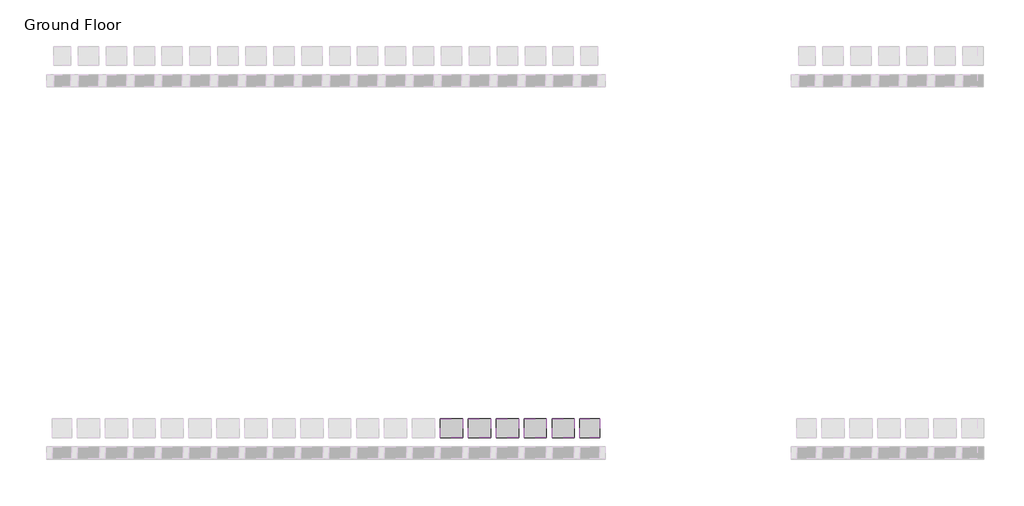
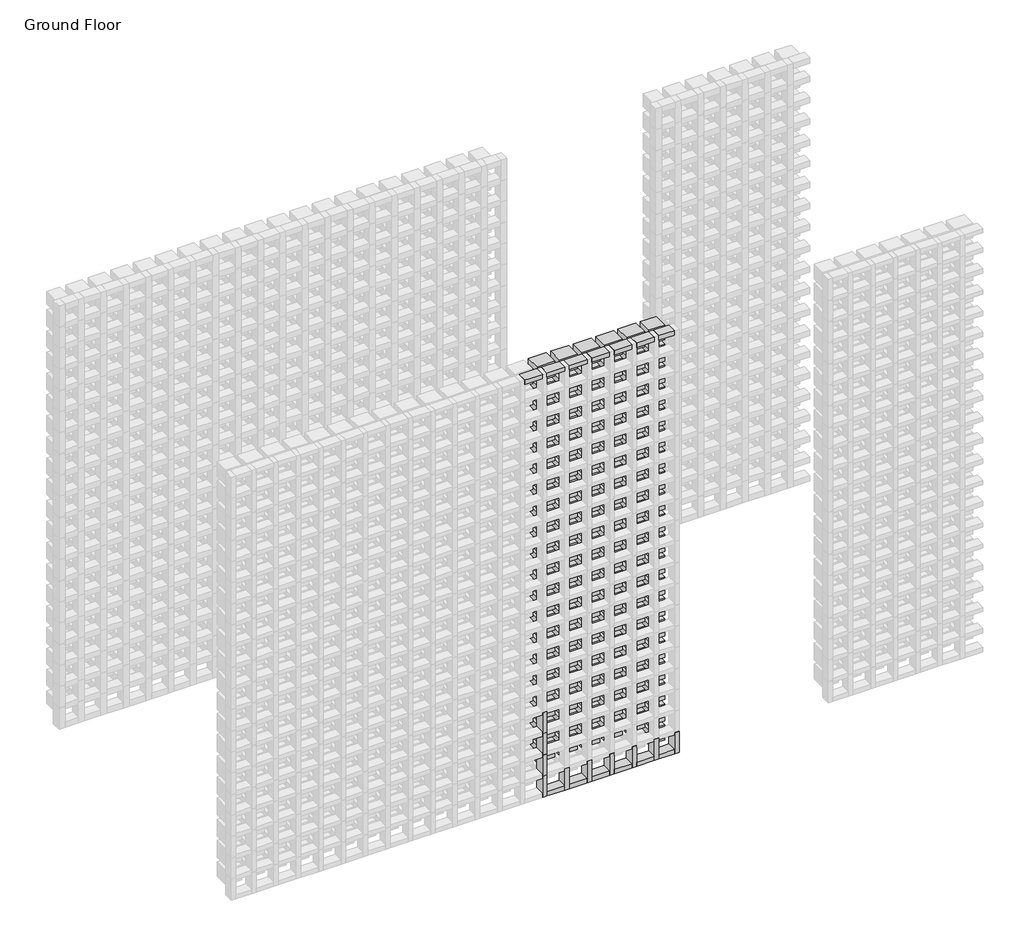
# One storey, part 62 of 350: 115 plates, 23 members.
"""IFC4 building model written with IfcOpenShell, lengths in millimetres."""

from ifc_helpers import new_model, si_unit, origin, place, context, project, spatial, transform, mapped, element, save
from components import rectangular_mullion_5b501421, rectangular_mullion_f2fcf417, rectangular_mullion_51467dcc, rectangular_mullion_27b03f3e, rectangular_mullion_d4c9a775, rectangular_mullion_a9727e9f, empty_system_panel_empty_a57e421f, empty_system_panel_empty_fe50b430, empty_system_panel_empty_3353a095, empty_system_panel_empty_0cf761f0

model = new_model("IFC4")

# Units and contexts
model_context = context("Model", 3, world=origin())
ifc_project = project(units=[si_unit("LENGTHUNIT", "METRE", prefix="MILLI")], contexts=[model_context])

# Site, building, storey
site = spatial("IfcSite", under=ifc_project)
building = spatial("IfcBuilding", under=site)
storey = spatial("IfcBuildingStorey", under=building, Name="Ground Floor", Elevation=0.0)

# Members
placement = place(None, origin())
rectangular_mullion_shape = rectangular_mullion_5b501421(model_context)
element("IfcMember", 1, ObjectType="Rectangular Mullion : Batten_Timber_Modinex_Austratus_Grid_Fascia_30x65_Blackbutt", at=placement, inside=storey, context=model_context, shape_type="MappedRepresentation", body=[
    mapped(rectangular_mullion_shape, transform((8016.4361642, 38968.2978302, 0.0), x_axis=(1.0, 0.0, 0.0), y_axis=(0.0, -1.0, 0.0), z_axis=(0.0, 0.0, -1.0))),
])
element("IfcMember", 2, ObjectType="Rectangular Mullion : Batten_Timber_Modinex_Austratus_Grid_Fascia_30x65_Blackbutt", at=placement, inside=storey, context=model_context, shape_type="MappedRepresentation", body=[
    mapped(rectangular_mullion_shape, transform((8166.4361642, 38968.2978302, 0.0), x_axis=(1.0, 0.0, 0.0), y_axis=(0.0, -1.0, 0.0), z_axis=(0.0, 0.0, -1.0))),
])
element("IfcMember", 3, ObjectType="Rectangular Mullion : Batten_Timber_Modinex_Austratus_Grid_Fascia_30x65_Blackbutt", at=placement, inside=storey, context=model_context, shape_type="MappedRepresentation", body=[
    mapped(rectangular_mullion_shape, transform((8316.4361642, 38968.2978302, 0.0), x_axis=(1.0, 0.0, 0.0), y_axis=(0.0, -1.0, 0.0), z_axis=(0.0, 0.0, -1.0))),
])
element("IfcMember", 4, ObjectType="Rectangular Mullion : Batten_Timber_Modinex_Austratus_Grid_Fascia_30x65_Blackbutt", at=placement, inside=storey, context=model_context, shape_type="MappedRepresentation", body=[
    mapped(rectangular_mullion_shape, transform((8466.4361642, 38968.2978302, 0.0), x_axis=(1.0, 0.0, 0.0), y_axis=(0.0, -1.0, 0.0), z_axis=(0.0, 0.0, -1.0))),
])
element("IfcMember", 5, ObjectType="Rectangular Mullion : Batten_Timber_Modinex_Austratus_Grid_Fascia_30x65_Blackbutt", at=placement, inside=storey, context=model_context, shape_type="MappedRepresentation", body=[
    mapped(rectangular_mullion_shape, transform((8616.4361642, 38968.2978302, 0.0), x_axis=(1.0, 0.0, 0.0), y_axis=(0.0, -1.0, 0.0), z_axis=(0.0, 0.0, -1.0))),
])
element("IfcMember", 6, ObjectType="Rectangular Mullion : Batten_Timber_Modinex_Austratus_Grid_Fascia_30x65_Blackbutt", at=placement, inside=storey, context=model_context, shape_type="MappedRepresentation", body=[
    mapped(rectangular_mullion_shape, transform((8766.4361642, 38968.2978302, 0.0), x_axis=(1.0, 0.0, 0.0), y_axis=(0.0, -1.0, 0.0), z_axis=(0.0, 0.0, -1.0))),
])
rectangular_mullion_2_shape = rectangular_mullion_f2fcf417(model_context)
element("IfcMember", 7, ObjectType="Rectangular Mullion : Batten_Timber_Modinex_Austratus_Grid_Fascia_30x65_Blackbutt", at=placement, inside=storey, context=model_context, shape_type="MappedRepresentation", body=[
    mapped(rectangular_mullion_2_shape, transform((8886.4361639, 38968.2978302, 3000.0), x_axis=(0.0, 0.0, 1.0), y_axis=(0.0, -1.0, 0.0), z_axis=(1.0, 0.0, 0.0))),
])
rectangular_mullion_3_shape = rectangular_mullion_51467dcc(model_context)
element("IfcMember", 8, ObjectType="Rectangular Mullion : Batten_Timber_Modinex_Austratus_Grid_Fascia_30x65_Blackbutt", at=placement, inside=storey, context=model_context, shape_type="MappedRepresentation", body=[
    mapped(rectangular_mullion_3_shape, transform((8001.4361642, 38968.2978302, 3000.0), x_axis=(0.0, 0.0, 1.0), y_axis=(0.0, -1.0, 0.0), z_axis=(1.0, 0.0, 0.0))),
])
element("IfcMember", 9, ObjectType="Rectangular Mullion : Batten_Timber_Modinex_Austratus_Grid_Fascia_30x65_Blackbutt", at=placement, inside=storey, context=model_context, shape_type="MappedRepresentation", body=[
    mapped(rectangular_mullion_3_shape, transform((8151.4361642, 38968.2978302, 3000.0), x_axis=(0.0, 0.0, 1.0), y_axis=(0.0, -1.0, 0.0), z_axis=(1.0, 0.0, 0.0))),
])
element("IfcMember", 10, ObjectType="Rectangular Mullion : Batten_Timber_Modinex_Austratus_Grid_Fascia_30x65_Blackbutt", at=placement, inside=storey, context=model_context, shape_type="MappedRepresentation", body=[
    mapped(rectangular_mullion_3_shape, transform((8301.4361642, 38968.2978302, 3000.0), x_axis=(0.0, 0.0, 1.0), y_axis=(0.0, -1.0, 0.0), z_axis=(1.0, 0.0, 0.0))),
])
element("IfcMember", 11, ObjectType="Rectangular Mullion : Batten_Timber_Modinex_Austratus_Grid_Fascia_30x65_Blackbutt", at=placement, inside=storey, context=model_context, shape_type="MappedRepresentation", body=[
    mapped(rectangular_mullion_3_shape, transform((8451.4361642, 38968.2978302, 3000.0), x_axis=(0.0, 0.0, 1.0), y_axis=(0.0, -1.0, 0.0), z_axis=(1.0, 0.0, 0.0))),
])
element("IfcMember", 12, ObjectType="Rectangular Mullion : Batten_Timber_Modinex_Austratus_Grid_Fascia_30x65_Blackbutt", at=placement, inside=storey, context=model_context, shape_type="MappedRepresentation", body=[
    mapped(rectangular_mullion_3_shape, transform((8601.4361642, 38968.2978302, 3000.0), x_axis=(0.0, 0.0, 1.0), y_axis=(0.0, -1.0, 0.0), z_axis=(1.0, 0.0, 0.0))),
])
element("IfcMember", 13, ObjectType="Rectangular Mullion : Batten_Timber_Modinex_Austratus_Grid_Fascia_30x65_Blackbutt", at=placement, inside=storey, context=model_context, shape_type="MappedRepresentation", body=[
    mapped(rectangular_mullion_3_shape, transform((8751.4361642, 38968.2978302, 3000.0), x_axis=(0.0, 0.0, 1.0), y_axis=(0.0, -1.0, 0.0), z_axis=(1.0, 0.0, 0.0))),
])
rectangular_mullion_4_shape = rectangular_mullion_27b03f3e(model_context)
element("IfcMember", 14, ObjectType="Rectangular Mullion : Batten_Timber_Modinex_Austratus_Grid_Fascia_30x65_Blackbutt", at=placement, inside=storey, context=model_context, shape_type="MappedRepresentation", body=[
    mapped(rectangular_mullion_4_shape, transform((8781.4361642, 38968.2978302, 0.0), x_axis=(0.0, 0.0, -1.0), y_axis=(0.0, -1.0, 0.0), z_axis=(-1.0, 0.0, 0.0))),
])
rectangular_mullion_5_shape = rectangular_mullion_d4c9a775(model_context)
element("IfcMember", 15, ObjectType="Rectangular Mullion : Batten_Timber_Modinex_Austratus_Grid_Fascia_30x65_Blackbutt", at=placement, inside=storey, context=model_context, shape_type="MappedRepresentation", body=[
    mapped(rectangular_mullion_5_shape, transform((8031.4361642, 38968.2978302, 0.0), x_axis=(0.0, 0.0, -1.0), y_axis=(0.0, -1.0, 0.0), z_axis=(-1.0, 0.0, 0.0))),
])
element("IfcMember", 16, ObjectType="Rectangular Mullion : Batten_Timber_Modinex_Austratus_Grid_Fascia_30x65_Blackbutt", at=placement, inside=storey, context=model_context, shape_type="MappedRepresentation", body=[
    mapped(rectangular_mullion_5_shape, transform((8181.4361642, 38968.2978302, 0.0), x_axis=(0.0, 0.0, -1.0), y_axis=(0.0, -1.0, 0.0), z_axis=(-1.0, 0.0, 0.0))),
])
element("IfcMember", 17, ObjectType="Rectangular Mullion : Batten_Timber_Modinex_Austratus_Grid_Fascia_30x65_Blackbutt", at=placement, inside=storey, context=model_context, shape_type="MappedRepresentation", body=[
    mapped(rectangular_mullion_5_shape, transform((8331.4361642, 38968.2978302, 0.0), x_axis=(0.0, 0.0, -1.0), y_axis=(0.0, -1.0, 0.0), z_axis=(-1.0, 0.0, 0.0))),
])
element("IfcMember", 18, ObjectType="Rectangular Mullion : Batten_Timber_Modinex_Austratus_Grid_Fascia_30x65_Blackbutt", at=placement, inside=storey, context=model_context, shape_type="MappedRepresentation", body=[
    mapped(rectangular_mullion_5_shape, transform((8481.4361642, 38968.2978302, 0.0), x_axis=(0.0, 0.0, -1.0), y_axis=(0.0, -1.0, 0.0), z_axis=(-1.0, 0.0, 0.0))),
])
element("IfcMember", 19, ObjectType="Rectangular Mullion : Batten_Timber_Modinex_Austratus_Grid_Fascia_30x65_Blackbutt", at=placement, inside=storey, context=model_context, shape_type="MappedRepresentation", body=[
    mapped(rectangular_mullion_5_shape, transform((8631.4361642, 38968.2978302, 0.0), x_axis=(0.0, 0.0, -1.0), y_axis=(0.0, -1.0, 0.0), z_axis=(-1.0, 0.0, 0.0))),
])
element("IfcMember", 20, ObjectType="Rectangular Mullion : Batten_Timber_Modinex_Austratus_Grid_Fascia_30x65_Blackbutt", at=placement, inside=storey, context=model_context, shape_type="MappedRepresentation", body=[
    mapped(rectangular_mullion_shape, transform((8016.4361642, 38968.2978302, 150.0), x_axis=(1.0, 0.0, 0.0), y_axis=(0.0, -1.0, 0.0), z_axis=(0.0, 0.0, -1.0))),
])
element("IfcMember", 21, ObjectType="Rectangular Mullion : Batten_Timber_Modinex_Austratus_Grid_Fascia_30x65_Blackbutt", at=placement, inside=storey, context=model_context, shape_type="MappedRepresentation", body=[
    mapped(rectangular_mullion_shape, transform((8016.4361642, 38968.2978302, 300.0), x_axis=(1.0, 0.0, 0.0), y_axis=(0.0, -1.0, 0.0), z_axis=(0.0, 0.0, -1.0))),
])
element("IfcMember", 22, ObjectType="Rectangular Mullion : Batten_Timber_Modinex_Austratus_Grid_Fascia_30x65_Blackbutt", at=placement, inside=storey, context=model_context, shape_type="MappedRepresentation", body=[
    mapped(rectangular_mullion_shape, transform((8016.4361642, 38968.2978302, 450.0), x_axis=(1.0, 0.0, 0.0), y_axis=(0.0, -1.0, 0.0), z_axis=(0.0, 0.0, -1.0))),
])
rectangular_mullion_6_shape = rectangular_mullion_a9727e9f(model_context)
element("IfcMember", 23, ObjectType="Rectangular Mullion : Batten_Timber_Modinex_Austratus_Grid_Fascia_30x65_Blackbutt", at=placement, inside=storey, context=model_context, shape_type="MappedRepresentation", body=[
    mapped(rectangular_mullion_6_shape, transform((8916.4361639, 38968.2978302, 0.0), x_axis=(1.0, 0.0, 0.0), y_axis=(0.0, -1.0, 0.0), z_axis=(0.0, 0.0, -1.0))),
])

# Plates
empty_system_panel_empty_shape = empty_system_panel_empty_a57e421f(model_context)
element("IfcPlate", 24, ObjectType="Empty System Panel : Empty", at=placement, inside=storey, context=model_context, shape_type="MappedRepresentation", body=[
    mapped(empty_system_panel_empty_shape, transform((8091.4361642, 38968.2978302, 165.0), x_axis=(1.0, 0.0, 0.0), y_axis=(0.0, 1.0, 0.0), z_axis=(0.0, 0.0, 1.0))),
])
element("IfcPlate", 25, ObjectType="Empty System Panel : Empty", at=placement, inside=storey, context=model_context, shape_type="MappedRepresentation", body=[
    mapped(empty_system_panel_empty_shape, transform((8241.4361642, 38968.2978302, 165.0), x_axis=(1.0, 0.0, 0.0), y_axis=(0.0, 1.0, 0.0), z_axis=(0.0, 0.0, 1.0))),
])
element("IfcPlate", 26, ObjectType="Empty System Panel : Empty", at=placement, inside=storey, context=model_context, shape_type="MappedRepresentation", body=[
    mapped(empty_system_panel_empty_shape, transform((8391.4361642, 38968.2978302, 165.0), x_axis=(1.0, 0.0, 0.0), y_axis=(0.0, 1.0, 0.0), z_axis=(0.0, 0.0, 1.0))),
])
element("IfcPlate", 27, ObjectType="Empty System Panel : Empty", at=placement, inside=storey, context=model_context, shape_type="MappedRepresentation", body=[
    mapped(empty_system_panel_empty_shape, transform((8541.4361642, 38968.2978302, 165.0), x_axis=(1.0, 0.0, 0.0), y_axis=(0.0, 1.0, 0.0), z_axis=(0.0, 0.0, 1.0))),
])
element("IfcPlate", 28, ObjectType="Empty System Panel : Empty", at=placement, inside=storey, context=model_context, shape_type="MappedRepresentation", body=[
    mapped(empty_system_panel_empty_shape, transform((8691.4361642, 38968.2978302, 165.0), x_axis=(1.0, 0.0, 0.0), y_axis=(0.0, 1.0, 0.0), z_axis=(0.0, 0.0, 1.0))),
])
element("IfcPlate", 29, ObjectType="Empty System Panel : Empty", at=placement, inside=storey, context=model_context, shape_type="MappedRepresentation", body=[
    mapped(empty_system_panel_empty_shape, transform((8091.4361642, 38968.2978302, 315.0), x_axis=(1.0, 0.0, 0.0), y_axis=(0.0, 1.0, 0.0), z_axis=(0.0, 0.0, 1.0))),
])
element("IfcPlate", 30, ObjectType="Empty System Panel : Empty", at=placement, inside=storey, context=model_context, shape_type="MappedRepresentation", body=[
    mapped(empty_system_panel_empty_shape, transform((8241.4361642, 38968.2978302, 315.0), x_axis=(1.0, 0.0, 0.0), y_axis=(0.0, 1.0, 0.0), z_axis=(0.0, 0.0, 1.0))),
])
element("IfcPlate", 31, ObjectType="Empty System Panel : Empty", at=placement, inside=storey, context=model_context, shape_type="MappedRepresentation", body=[
    mapped(empty_system_panel_empty_shape, transform((8391.4361642, 38968.2978302, 315.0), x_axis=(1.0, 0.0, 0.0), y_axis=(0.0, 1.0, 0.0), z_axis=(0.0, 0.0, 1.0))),
])
element("IfcPlate", 32, ObjectType="Empty System Panel : Empty", at=placement, inside=storey, context=model_context, shape_type="MappedRepresentation", body=[
    mapped(empty_system_panel_empty_shape, transform((8541.4361642, 38968.2978302, 315.0), x_axis=(1.0, 0.0, 0.0), y_axis=(0.0, 1.0, 0.0), z_axis=(0.0, 0.0, 1.0))),
])
element("IfcPlate", 33, ObjectType="Empty System Panel : Empty", at=placement, inside=storey, context=model_context, shape_type="MappedRepresentation", body=[
    mapped(empty_system_panel_empty_shape, transform((8691.4361642, 38968.2978302, 315.0), x_axis=(1.0, 0.0, 0.0), y_axis=(0.0, 1.0, 0.0), z_axis=(0.0, 0.0, 1.0))),
])
element("IfcPlate", 34, ObjectType="Empty System Panel : Empty", at=placement, inside=storey, context=model_context, shape_type="MappedRepresentation", body=[
    mapped(empty_system_panel_empty_shape, transform((8091.4361642, 38968.2978302, 465.0), x_axis=(1.0, 0.0, 0.0), y_axis=(0.0, 1.0, 0.0), z_axis=(0.0, 0.0, 1.0))),
])
element("IfcPlate", 35, ObjectType="Empty System Panel : Empty", at=placement, inside=storey, context=model_context, shape_type="MappedRepresentation", body=[
    mapped(empty_system_panel_empty_shape, transform((8241.4361642, 38968.2978302, 465.0), x_axis=(1.0, 0.0, 0.0), y_axis=(0.0, 1.0, 0.0), z_axis=(0.0, 0.0, 1.0))),
])
element("IfcPlate", 36, ObjectType="Empty System Panel : Empty", at=placement, inside=storey, context=model_context, shape_type="MappedRepresentation", body=[
    mapped(empty_system_panel_empty_shape, transform((8391.4361642, 38968.2978302, 465.0), x_axis=(1.0, 0.0, 0.0), y_axis=(0.0, 1.0, 0.0), z_axis=(0.0, 0.0, 1.0))),
])
element("IfcPlate", 37, ObjectType="Empty System Panel : Empty", at=placement, inside=storey, context=model_context, shape_type="MappedRepresentation", body=[
    mapped(empty_system_panel_empty_shape, transform((8541.4361642, 38968.2978302, 465.0), x_axis=(1.0, 0.0, 0.0), y_axis=(0.0, 1.0, 0.0), z_axis=(0.0, 0.0, 1.0))),
])
element("IfcPlate", 38, ObjectType="Empty System Panel : Empty", at=placement, inside=storey, context=model_context, shape_type="MappedRepresentation", body=[
    mapped(empty_system_panel_empty_shape, transform((8691.4361642, 38968.2978302, 465.0), x_axis=(1.0, 0.0, 0.0), y_axis=(0.0, 1.0, 0.0), z_axis=(0.0, 0.0, 1.0))),
])
element("IfcPlate", 39, ObjectType="Empty System Panel : Empty", at=placement, inside=storey, context=model_context, shape_type="MappedRepresentation", body=[
    mapped(empty_system_panel_empty_shape, transform((8091.4361642, 38968.2978302, 615.0), x_axis=(1.0, 0.0, 0.0), y_axis=(0.0, 1.0, 0.0), z_axis=(0.0, 0.0, 1.0))),
])
element("IfcPlate", 40, ObjectType="Empty System Panel : Empty", at=placement, inside=storey, context=model_context, shape_type="MappedRepresentation", body=[
    mapped(empty_system_panel_empty_shape, transform((8241.4361642, 38968.2978302, 615.0), x_axis=(1.0, 0.0, 0.0), y_axis=(0.0, 1.0, 0.0), z_axis=(0.0, 0.0, 1.0))),
])
element("IfcPlate", 41, ObjectType="Empty System Panel : Empty", at=placement, inside=storey, context=model_context, shape_type="MappedRepresentation", body=[
    mapped(empty_system_panel_empty_shape, transform((8391.4361642, 38968.2978302, 615.0), x_axis=(1.0, 0.0, 0.0), y_axis=(0.0, 1.0, 0.0), z_axis=(0.0, 0.0, 1.0))),
])
element("IfcPlate", 42, ObjectType="Empty System Panel : Empty", at=placement, inside=storey, context=model_context, shape_type="MappedRepresentation", body=[
    mapped(empty_system_panel_empty_shape, transform((8541.4361642, 38968.2978302, 615.0), x_axis=(1.0, 0.0, 0.0), y_axis=(0.0, 1.0, 0.0), z_axis=(0.0, 0.0, 1.0))),
])
element("IfcPlate", 43, ObjectType="Empty System Panel : Empty", at=placement, inside=storey, context=model_context, shape_type="MappedRepresentation", body=[
    mapped(empty_system_panel_empty_shape, transform((8691.4361642, 38968.2978302, 615.0), x_axis=(1.0, 0.0, 0.0), y_axis=(0.0, 1.0, 0.0), z_axis=(0.0, 0.0, 1.0))),
])
element("IfcPlate", 44, ObjectType="Empty System Panel : Empty", at=placement, inside=storey, context=model_context, shape_type="MappedRepresentation", body=[
    mapped(empty_system_panel_empty_shape, transform((8091.4361642, 38968.2978302, 765.0), x_axis=(1.0, 0.0, 0.0), y_axis=(0.0, 1.0, 0.0), z_axis=(0.0, 0.0, 1.0))),
])
element("IfcPlate", 45, ObjectType="Empty System Panel : Empty", at=placement, inside=storey, context=model_context, shape_type="MappedRepresentation", body=[
    mapped(empty_system_panel_empty_shape, transform((8241.4361642, 38968.2978302, 765.0), x_axis=(1.0, 0.0, 0.0), y_axis=(0.0, 1.0, 0.0), z_axis=(0.0, 0.0, 1.0))),
])
element("IfcPlate", 46, ObjectType="Empty System Panel : Empty", at=placement, inside=storey, context=model_context, shape_type="MappedRepresentation", body=[
    mapped(empty_system_panel_empty_shape, transform((8391.4361642, 38968.2978302, 765.0), x_axis=(1.0, 0.0, 0.0), y_axis=(0.0, 1.0, 0.0), z_axis=(0.0, 0.0, 1.0))),
])
element("IfcPlate", 47, ObjectType="Empty System Panel : Empty", at=placement, inside=storey, context=model_context, shape_type="MappedRepresentation", body=[
    mapped(empty_system_panel_empty_shape, transform((8541.4361642, 38968.2978302, 765.0), x_axis=(1.0, 0.0, 0.0), y_axis=(0.0, 1.0, 0.0), z_axis=(0.0, 0.0, 1.0))),
])
element("IfcPlate", 48, ObjectType="Empty System Panel : Empty", at=placement, inside=storey, context=model_context, shape_type="MappedRepresentation", body=[
    mapped(empty_system_panel_empty_shape, transform((8691.4361642, 38968.2978302, 765.0), x_axis=(1.0, 0.0, 0.0), y_axis=(0.0, 1.0, 0.0), z_axis=(0.0, 0.0, 1.0))),
])
element("IfcPlate", 49, ObjectType="Empty System Panel : Empty", at=placement, inside=storey, context=model_context, shape_type="MappedRepresentation", body=[
    mapped(empty_system_panel_empty_shape, transform((8091.4361642, 38968.2978302, 915.0), x_axis=(1.0, 0.0, 0.0), y_axis=(0.0, 1.0, 0.0), z_axis=(0.0, 0.0, 1.0))),
])
element("IfcPlate", 50, ObjectType="Empty System Panel : Empty", at=placement, inside=storey, context=model_context, shape_type="MappedRepresentation", body=[
    mapped(empty_system_panel_empty_shape, transform((8241.4361642, 38968.2978302, 915.0), x_axis=(1.0, 0.0, 0.0), y_axis=(0.0, 1.0, 0.0), z_axis=(0.0, 0.0, 1.0))),
])
element("IfcPlate", 51, ObjectType="Empty System Panel : Empty", at=placement, inside=storey, context=model_context, shape_type="MappedRepresentation", body=[
    mapped(empty_system_panel_empty_shape, transform((8391.4361642, 38968.2978302, 915.0), x_axis=(1.0, 0.0, 0.0), y_axis=(0.0, 1.0, 0.0), z_axis=(0.0, 0.0, 1.0))),
])
element("IfcPlate", 52, ObjectType="Empty System Panel : Empty", at=placement, inside=storey, context=model_context, shape_type="MappedRepresentation", body=[
    mapped(empty_system_panel_empty_shape, transform((8541.4361642, 38968.2978302, 915.0), x_axis=(1.0, 0.0, 0.0), y_axis=(0.0, 1.0, 0.0), z_axis=(0.0, 0.0, 1.0))),
])
element("IfcPlate", 53, ObjectType="Empty System Panel : Empty", at=placement, inside=storey, context=model_context, shape_type="MappedRepresentation", body=[
    mapped(empty_system_panel_empty_shape, transform((8691.4361642, 38968.2978302, 915.0), x_axis=(1.0, 0.0, 0.0), y_axis=(0.0, 1.0, 0.0), z_axis=(0.0, 0.0, 1.0))),
])
element("IfcPlate", 54, ObjectType="Empty System Panel : Empty", at=placement, inside=storey, context=model_context, shape_type="MappedRepresentation", body=[
    mapped(empty_system_panel_empty_shape, transform((8091.4361642, 38968.2978302, 1065.0), x_axis=(1.0, 0.0, 0.0), y_axis=(0.0, 1.0, 0.0), z_axis=(0.0, 0.0, 1.0))),
])
element("IfcPlate", 55, ObjectType="Empty System Panel : Empty", at=placement, inside=storey, context=model_context, shape_type="MappedRepresentation", body=[
    mapped(empty_system_panel_empty_shape, transform((8241.4361642, 38968.2978302, 1065.0), x_axis=(1.0, 0.0, 0.0), y_axis=(0.0, 1.0, 0.0), z_axis=(0.0, 0.0, 1.0))),
])
element("IfcPlate", 56, ObjectType="Empty System Panel : Empty", at=placement, inside=storey, context=model_context, shape_type="MappedRepresentation", body=[
    mapped(empty_system_panel_empty_shape, transform((8391.4361642, 38968.2978302, 1065.0), x_axis=(1.0, 0.0, 0.0), y_axis=(0.0, 1.0, 0.0), z_axis=(0.0, 0.0, 1.0))),
])
element("IfcPlate", 57, ObjectType="Empty System Panel : Empty", at=placement, inside=storey, context=model_context, shape_type="MappedRepresentation", body=[
    mapped(empty_system_panel_empty_shape, transform((8541.4361642, 38968.2978302, 1065.0), x_axis=(1.0, 0.0, 0.0), y_axis=(0.0, 1.0, 0.0), z_axis=(0.0, 0.0, 1.0))),
])
element("IfcPlate", 58, ObjectType="Empty System Panel : Empty", at=placement, inside=storey, context=model_context, shape_type="MappedRepresentation", body=[
    mapped(empty_system_panel_empty_shape, transform((8691.4361642, 38968.2978302, 1065.0), x_axis=(1.0, 0.0, 0.0), y_axis=(0.0, 1.0, 0.0), z_axis=(0.0, 0.0, 1.0))),
])
element("IfcPlate", 59, ObjectType="Empty System Panel : Empty", at=placement, inside=storey, context=model_context, shape_type="MappedRepresentation", body=[
    mapped(empty_system_panel_empty_shape, transform((8091.4361642, 38968.2978302, 1215.0), x_axis=(1.0, 0.0, 0.0), y_axis=(0.0, 1.0, 0.0), z_axis=(0.0, 0.0, 1.0))),
])
element("IfcPlate", 60, ObjectType="Empty System Panel : Empty", at=placement, inside=storey, context=model_context, shape_type="MappedRepresentation", body=[
    mapped(empty_system_panel_empty_shape, transform((8241.4361642, 38968.2978302, 1215.0), x_axis=(1.0, 0.0, 0.0), y_axis=(0.0, 1.0, 0.0), z_axis=(0.0, 0.0, 1.0))),
])
element("IfcPlate", 61, ObjectType="Empty System Panel : Empty", at=placement, inside=storey, context=model_context, shape_type="MappedRepresentation", body=[
    mapped(empty_system_panel_empty_shape, transform((8391.4361642, 38968.2978302, 1215.0), x_axis=(1.0, 0.0, 0.0), y_axis=(0.0, 1.0, 0.0), z_axis=(0.0, 0.0, 1.0))),
])
element("IfcPlate", 62, ObjectType="Empty System Panel : Empty", at=placement, inside=storey, context=model_context, shape_type="MappedRepresentation", body=[
    mapped(empty_system_panel_empty_shape, transform((8541.4361642, 38968.2978302, 1215.0), x_axis=(1.0, 0.0, 0.0), y_axis=(0.0, 1.0, 0.0), z_axis=(0.0, 0.0, 1.0))),
])
element("IfcPlate", 63, ObjectType="Empty System Panel : Empty", at=placement, inside=storey, context=model_context, shape_type="MappedRepresentation", body=[
    mapped(empty_system_panel_empty_shape, transform((8691.4361642, 38968.2978302, 1215.0), x_axis=(1.0, 0.0, 0.0), y_axis=(0.0, 1.0, 0.0), z_axis=(0.0, 0.0, 1.0))),
])
element("IfcPlate", 64, ObjectType="Empty System Panel : Empty", at=placement, inside=storey, context=model_context, shape_type="MappedRepresentation", body=[
    mapped(empty_system_panel_empty_shape, transform((8091.4361642, 38968.2978302, 1365.0), x_axis=(1.0, 0.0, 0.0), y_axis=(0.0, 1.0, 0.0), z_axis=(0.0, 0.0, 1.0))),
])
element("IfcPlate", 65, ObjectType="Empty System Panel : Empty", at=placement, inside=storey, context=model_context, shape_type="MappedRepresentation", body=[
    mapped(empty_system_panel_empty_shape, transform((8241.4361642, 38968.2978302, 1365.0), x_axis=(1.0, 0.0, 0.0), y_axis=(0.0, 1.0, 0.0), z_axis=(0.0, 0.0, 1.0))),
])
element("IfcPlate", 66, ObjectType="Empty System Panel : Empty", at=placement, inside=storey, context=model_context, shape_type="MappedRepresentation", body=[
    mapped(empty_system_panel_empty_shape, transform((8391.4361642, 38968.2978302, 1365.0), x_axis=(1.0, 0.0, 0.0), y_axis=(0.0, 1.0, 0.0), z_axis=(0.0, 0.0, 1.0))),
])
element("IfcPlate", 67, ObjectType="Empty System Panel : Empty", at=placement, inside=storey, context=model_context, shape_type="MappedRepresentation", body=[
    mapped(empty_system_panel_empty_shape, transform((8541.4361642, 38968.2978302, 1365.0), x_axis=(1.0, 0.0, 0.0), y_axis=(0.0, 1.0, 0.0), z_axis=(0.0, 0.0, 1.0))),
])
element("IfcPlate", 68, ObjectType="Empty System Panel : Empty", at=placement, inside=storey, context=model_context, shape_type="MappedRepresentation", body=[
    mapped(empty_system_panel_empty_shape, transform((8691.4361642, 38968.2978302, 1365.0), x_axis=(1.0, 0.0, 0.0), y_axis=(0.0, 1.0, 0.0), z_axis=(0.0, 0.0, 1.0))),
])
element("IfcPlate", 69, ObjectType="Empty System Panel : Empty", at=placement, inside=storey, context=model_context, shape_type="MappedRepresentation", body=[
    mapped(empty_system_panel_empty_shape, transform((8091.4361642, 38968.2978302, 1515.0), x_axis=(1.0, 0.0, 0.0), y_axis=(0.0, 1.0, 0.0), z_axis=(0.0, 0.0, 1.0))),
])
element("IfcPlate", 70, ObjectType="Empty System Panel : Empty", at=placement, inside=storey, context=model_context, shape_type="MappedRepresentation", body=[
    mapped(empty_system_panel_empty_shape, transform((8241.4361642, 38968.2978302, 1515.0), x_axis=(1.0, 0.0, 0.0), y_axis=(0.0, 1.0, 0.0), z_axis=(0.0, 0.0, 1.0))),
])
element("IfcPlate", 71, ObjectType="Empty System Panel : Empty", at=placement, inside=storey, context=model_context, shape_type="MappedRepresentation", body=[
    mapped(empty_system_panel_empty_shape, transform((8391.4361642, 38968.2978302, 1515.0), x_axis=(1.0, 0.0, 0.0), y_axis=(0.0, 1.0, 0.0), z_axis=(0.0, 0.0, 1.0))),
])
element("IfcPlate", 72, ObjectType="Empty System Panel : Empty", at=placement, inside=storey, context=model_context, shape_type="MappedRepresentation", body=[
    mapped(empty_system_panel_empty_shape, transform((8541.4361642, 38968.2978302, 1515.0), x_axis=(1.0, 0.0, 0.0), y_axis=(0.0, 1.0, 0.0), z_axis=(0.0, 0.0, 1.0))),
])
element("IfcPlate", 73, ObjectType="Empty System Panel : Empty", at=placement, inside=storey, context=model_context, shape_type="MappedRepresentation", body=[
    mapped(empty_system_panel_empty_shape, transform((8691.4361642, 38968.2978302, 1515.0), x_axis=(1.0, 0.0, 0.0), y_axis=(0.0, 1.0, 0.0), z_axis=(0.0, 0.0, 1.0))),
])
element("IfcPlate", 74, ObjectType="Empty System Panel : Empty", at=placement, inside=storey, context=model_context, shape_type="MappedRepresentation", body=[
    mapped(empty_system_panel_empty_shape, transform((8091.4361642, 38968.2978302, 1665.0), x_axis=(1.0, 0.0, 0.0), y_axis=(0.0, 1.0, 0.0), z_axis=(0.0, 0.0, 1.0))),
])
element("IfcPlate", 75, ObjectType="Empty System Panel : Empty", at=placement, inside=storey, context=model_context, shape_type="MappedRepresentation", body=[
    mapped(empty_system_panel_empty_shape, transform((8241.4361642, 38968.2978302, 1665.0), x_axis=(1.0, 0.0, 0.0), y_axis=(0.0, 1.0, 0.0), z_axis=(0.0, 0.0, 1.0))),
])
element("IfcPlate", 76, ObjectType="Empty System Panel : Empty", at=placement, inside=storey, context=model_context, shape_type="MappedRepresentation", body=[
    mapped(empty_system_panel_empty_shape, transform((8391.4361642, 38968.2978302, 1665.0), x_axis=(1.0, 0.0, 0.0), y_axis=(0.0, 1.0, 0.0), z_axis=(0.0, 0.0, 1.0))),
])
element("IfcPlate", 77, ObjectType="Empty System Panel : Empty", at=placement, inside=storey, context=model_context, shape_type="MappedRepresentation", body=[
    mapped(empty_system_panel_empty_shape, transform((8541.4361642, 38968.2978302, 1665.0), x_axis=(1.0, 0.0, 0.0), y_axis=(0.0, 1.0, 0.0), z_axis=(0.0, 0.0, 1.0))),
])
element("IfcPlate", 78, ObjectType="Empty System Panel : Empty", at=placement, inside=storey, context=model_context, shape_type="MappedRepresentation", body=[
    mapped(empty_system_panel_empty_shape, transform((8691.4361642, 38968.2978302, 1665.0), x_axis=(1.0, 0.0, 0.0), y_axis=(0.0, 1.0, 0.0), z_axis=(0.0, 0.0, 1.0))),
])
element("IfcPlate", 79, ObjectType="Empty System Panel : Empty", at=placement, inside=storey, context=model_context, shape_type="MappedRepresentation", body=[
    mapped(empty_system_panel_empty_shape, transform((8091.4361642, 38968.2978302, 1815.0), x_axis=(1.0, 0.0, 0.0), y_axis=(0.0, 1.0, 0.0), z_axis=(0.0, 0.0, 1.0))),
])
element("IfcPlate", 80, ObjectType="Empty System Panel : Empty", at=placement, inside=storey, context=model_context, shape_type="MappedRepresentation", body=[
    mapped(empty_system_panel_empty_shape, transform((8241.4361642, 38968.2978302, 1815.0), x_axis=(1.0, 0.0, 0.0), y_axis=(0.0, 1.0, 0.0), z_axis=(0.0, 0.0, 1.0))),
])
element("IfcPlate", 81, ObjectType="Empty System Panel : Empty", at=placement, inside=storey, context=model_context, shape_type="MappedRepresentation", body=[
    mapped(empty_system_panel_empty_shape, transform((8391.4361642, 38968.2978302, 1815.0), x_axis=(1.0, 0.0, 0.0), y_axis=(0.0, 1.0, 0.0), z_axis=(0.0, 0.0, 1.0))),
])
element("IfcPlate", 82, ObjectType="Empty System Panel : Empty", at=placement, inside=storey, context=model_context, shape_type="MappedRepresentation", body=[
    mapped(empty_system_panel_empty_shape, transform((8541.4361642, 38968.2978302, 1815.0), x_axis=(1.0, 0.0, 0.0), y_axis=(0.0, 1.0, 0.0), z_axis=(0.0, 0.0, 1.0))),
])
element("IfcPlate", 83, ObjectType="Empty System Panel : Empty", at=placement, inside=storey, context=model_context, shape_type="MappedRepresentation", body=[
    mapped(empty_system_panel_empty_shape, transform((8691.4361642, 38968.2978302, 1815.0), x_axis=(1.0, 0.0, 0.0), y_axis=(0.0, 1.0, 0.0), z_axis=(0.0, 0.0, 1.0))),
])
element("IfcPlate", 84, ObjectType="Empty System Panel : Empty", at=placement, inside=storey, context=model_context, shape_type="MappedRepresentation", body=[
    mapped(empty_system_panel_empty_shape, transform((8091.4361642, 38968.2978302, 1965.0), x_axis=(1.0, 0.0, 0.0), y_axis=(0.0, 1.0, 0.0), z_axis=(0.0, 0.0, 1.0))),
])
element("IfcPlate", 85, ObjectType="Empty System Panel : Empty", at=placement, inside=storey, context=model_context, shape_type="MappedRepresentation", body=[
    mapped(empty_system_panel_empty_shape, transform((8241.4361642, 38968.2978302, 1965.0), x_axis=(1.0, 0.0, 0.0), y_axis=(0.0, 1.0, 0.0), z_axis=(0.0, 0.0, 1.0))),
])
element("IfcPlate", 86, ObjectType="Empty System Panel : Empty", at=placement, inside=storey, context=model_context, shape_type="MappedRepresentation", body=[
    mapped(empty_system_panel_empty_shape, transform((8391.4361642, 38968.2978302, 1965.0), x_axis=(1.0, 0.0, 0.0), y_axis=(0.0, 1.0, 0.0), z_axis=(0.0, 0.0, 1.0))),
])
element("IfcPlate", 87, ObjectType="Empty System Panel : Empty", at=placement, inside=storey, context=model_context, shape_type="MappedRepresentation", body=[
    mapped(empty_system_panel_empty_shape, transform((8541.4361642, 38968.2978302, 1965.0), x_axis=(1.0, 0.0, 0.0), y_axis=(0.0, 1.0, 0.0), z_axis=(0.0, 0.0, 1.0))),
])
element("IfcPlate", 88, ObjectType="Empty System Panel : Empty", at=placement, inside=storey, context=model_context, shape_type="MappedRepresentation", body=[
    mapped(empty_system_panel_empty_shape, transform((8691.4361642, 38968.2978302, 1965.0), x_axis=(1.0, 0.0, 0.0), y_axis=(0.0, 1.0, 0.0), z_axis=(0.0, 0.0, 1.0))),
])
element("IfcPlate", 89, ObjectType="Empty System Panel : Empty", at=placement, inside=storey, context=model_context, shape_type="MappedRepresentation", body=[
    mapped(empty_system_panel_empty_shape, transform((8091.4361642, 38968.2978302, 2115.0), x_axis=(1.0, 0.0, 0.0), y_axis=(0.0, 1.0, 0.0), z_axis=(0.0, 0.0, 1.0))),
])
element("IfcPlate", 90, ObjectType="Empty System Panel : Empty", at=placement, inside=storey, context=model_context, shape_type="MappedRepresentation", body=[
    mapped(empty_system_panel_empty_shape, transform((8241.4361642, 38968.2978302, 2115.0), x_axis=(1.0, 0.0, 0.0), y_axis=(0.0, 1.0, 0.0), z_axis=(0.0, 0.0, 1.0))),
])
element("IfcPlate", 91, ObjectType="Empty System Panel : Empty", at=placement, inside=storey, context=model_context, shape_type="MappedRepresentation", body=[
    mapped(empty_system_panel_empty_shape, transform((8391.4361642, 38968.2978302, 2115.0), x_axis=(1.0, 0.0, 0.0), y_axis=(0.0, 1.0, 0.0), z_axis=(0.0, 0.0, 1.0))),
])
element("IfcPlate", 92, ObjectType="Empty System Panel : Empty", at=placement, inside=storey, context=model_context, shape_type="MappedRepresentation", body=[
    mapped(empty_system_panel_empty_shape, transform((8541.4361642, 38968.2978302, 2115.0), x_axis=(1.0, 0.0, 0.0), y_axis=(0.0, 1.0, 0.0), z_axis=(0.0, 0.0, 1.0))),
])
element("IfcPlate", 93, ObjectType="Empty System Panel : Empty", at=placement, inside=storey, context=model_context, shape_type="MappedRepresentation", body=[
    mapped(empty_system_panel_empty_shape, transform((8691.4361642, 38968.2978302, 2115.0), x_axis=(1.0, 0.0, 0.0), y_axis=(0.0, 1.0, 0.0), z_axis=(0.0, 0.0, 1.0))),
])
element("IfcPlate", 94, ObjectType="Empty System Panel : Empty", at=placement, inside=storey, context=model_context, shape_type="MappedRepresentation", body=[
    mapped(empty_system_panel_empty_shape, transform((8091.4361642, 38968.2978302, 2265.0), x_axis=(1.0, 0.0, 0.0), y_axis=(0.0, 1.0, 0.0), z_axis=(0.0, 0.0, 1.0))),
])
element("IfcPlate", 95, ObjectType="Empty System Panel : Empty", at=placement, inside=storey, context=model_context, shape_type="MappedRepresentation", body=[
    mapped(empty_system_panel_empty_shape, transform((8241.4361642, 38968.2978302, 2265.0), x_axis=(1.0, 0.0, 0.0), y_axis=(0.0, 1.0, 0.0), z_axis=(0.0, 0.0, 1.0))),
])
element("IfcPlate", 96, ObjectType="Empty System Panel : Empty", at=placement, inside=storey, context=model_context, shape_type="MappedRepresentation", body=[
    mapped(empty_system_panel_empty_shape, transform((8391.4361642, 38968.2978302, 2265.0), x_axis=(1.0, 0.0, 0.0), y_axis=(0.0, 1.0, 0.0), z_axis=(0.0, 0.0, 1.0))),
])
element("IfcPlate", 97, ObjectType="Empty System Panel : Empty", at=placement, inside=storey, context=model_context, shape_type="MappedRepresentation", body=[
    mapped(empty_system_panel_empty_shape, transform((8541.4361642, 38968.2978302, 2265.0), x_axis=(1.0, 0.0, 0.0), y_axis=(0.0, 1.0, 0.0), z_axis=(0.0, 0.0, 1.0))),
])
element("IfcPlate", 98, ObjectType="Empty System Panel : Empty", at=placement, inside=storey, context=model_context, shape_type="MappedRepresentation", body=[
    mapped(empty_system_panel_empty_shape, transform((8691.4361642, 38968.2978302, 2265.0), x_axis=(1.0, 0.0, 0.0), y_axis=(0.0, 1.0, 0.0), z_axis=(0.0, 0.0, 1.0))),
])
element("IfcPlate", 99, ObjectType="Empty System Panel : Empty", at=placement, inside=storey, context=model_context, shape_type="MappedRepresentation", body=[
    mapped(empty_system_panel_empty_shape, transform((8091.4361642, 38968.2978302, 2415.0), x_axis=(1.0, 0.0, 0.0), y_axis=(0.0, 1.0, 0.0), z_axis=(0.0, 0.0, 1.0))),
])
element("IfcPlate", 100, ObjectType="Empty System Panel : Empty", at=placement, inside=storey, context=model_context, shape_type="MappedRepresentation", body=[
    mapped(empty_system_panel_empty_shape, transform((8241.4361642, 38968.2978302, 2415.0), x_axis=(1.0, 0.0, 0.0), y_axis=(0.0, 1.0, 0.0), z_axis=(0.0, 0.0, 1.0))),
])
element("IfcPlate", 101, ObjectType="Empty System Panel : Empty", at=placement, inside=storey, context=model_context, shape_type="MappedRepresentation", body=[
    mapped(empty_system_panel_empty_shape, transform((8391.4361642, 38968.2978302, 2415.0), x_axis=(1.0, 0.0, 0.0), y_axis=(0.0, 1.0, 0.0), z_axis=(0.0, 0.0, 1.0))),
])
element("IfcPlate", 102, ObjectType="Empty System Panel : Empty", at=placement, inside=storey, context=model_context, shape_type="MappedRepresentation", body=[
    mapped(empty_system_panel_empty_shape, transform((8541.4361642, 38968.2978302, 2415.0), x_axis=(1.0, 0.0, 0.0), y_axis=(0.0, 1.0, 0.0), z_axis=(0.0, 0.0, 1.0))),
])
element("IfcPlate", 103, ObjectType="Empty System Panel : Empty", at=placement, inside=storey, context=model_context, shape_type="MappedRepresentation", body=[
    mapped(empty_system_panel_empty_shape, transform((8691.4361642, 38968.2978302, 2415.0), x_axis=(1.0, 0.0, 0.0), y_axis=(0.0, 1.0, 0.0), z_axis=(0.0, 0.0, 1.0))),
])
element("IfcPlate", 104, ObjectType="Empty System Panel : Empty", at=placement, inside=storey, context=model_context, shape_type="MappedRepresentation", body=[
    mapped(empty_system_panel_empty_shape, transform((8091.4361642, 38968.2978302, 2565.0), x_axis=(1.0, 0.0, 0.0), y_axis=(0.0, 1.0, 0.0), z_axis=(0.0, 0.0, 1.0))),
])
element("IfcPlate", 105, ObjectType="Empty System Panel : Empty", at=placement, inside=storey, context=model_context, shape_type="MappedRepresentation", body=[
    mapped(empty_system_panel_empty_shape, transform((8241.4361642, 38968.2978302, 2565.0), x_axis=(1.0, 0.0, 0.0), y_axis=(0.0, 1.0, 0.0), z_axis=(0.0, 0.0, 1.0))),
])
element("IfcPlate", 106, ObjectType="Empty System Panel : Empty", at=placement, inside=storey, context=model_context, shape_type="MappedRepresentation", body=[
    mapped(empty_system_panel_empty_shape, transform((8391.4361642, 38968.2978302, 2565.0), x_axis=(1.0, 0.0, 0.0), y_axis=(0.0, 1.0, 0.0), z_axis=(0.0, 0.0, 1.0))),
])
element("IfcPlate", 107, ObjectType="Empty System Panel : Empty", at=placement, inside=storey, context=model_context, shape_type="MappedRepresentation", body=[
    mapped(empty_system_panel_empty_shape, transform((8541.4361642, 38968.2978302, 2565.0), x_axis=(1.0, 0.0, 0.0), y_axis=(0.0, 1.0, 0.0), z_axis=(0.0, 0.0, 1.0))),
])
element("IfcPlate", 108, ObjectType="Empty System Panel : Empty", at=placement, inside=storey, context=model_context, shape_type="MappedRepresentation", body=[
    mapped(empty_system_panel_empty_shape, transform((8691.4361642, 38968.2978302, 2565.0), x_axis=(1.0, 0.0, 0.0), y_axis=(0.0, 1.0, 0.0), z_axis=(0.0, 0.0, 1.0))),
])
element("IfcPlate", 109, ObjectType="Empty System Panel : Empty", at=placement, inside=storey, context=model_context, shape_type="MappedRepresentation", body=[
    mapped(empty_system_panel_empty_shape, transform((8091.4361642, 38968.2978302, 2715.0), x_axis=(1.0, 0.0, 0.0), y_axis=(0.0, 1.0, 0.0), z_axis=(0.0, 0.0, 1.0))),
])
element("IfcPlate", 110, ObjectType="Empty System Panel : Empty", at=placement, inside=storey, context=model_context, shape_type="MappedRepresentation", body=[
    mapped(empty_system_panel_empty_shape, transform((8241.4361642, 38968.2978302, 2715.0), x_axis=(1.0, 0.0, 0.0), y_axis=(0.0, 1.0, 0.0), z_axis=(0.0, 0.0, 1.0))),
])
element("IfcPlate", 111, ObjectType="Empty System Panel : Empty", at=placement, inside=storey, context=model_context, shape_type="MappedRepresentation", body=[
    mapped(empty_system_panel_empty_shape, transform((8391.4361642, 38968.2978302, 2715.0), x_axis=(1.0, 0.0, 0.0), y_axis=(0.0, 1.0, 0.0), z_axis=(0.0, 0.0, 1.0))),
])
element("IfcPlate", 112, ObjectType="Empty System Panel : Empty", at=placement, inside=storey, context=model_context, shape_type="MappedRepresentation", body=[
    mapped(empty_system_panel_empty_shape, transform((8541.4361642, 38968.2978302, 2715.0), x_axis=(1.0, 0.0, 0.0), y_axis=(0.0, 1.0, 0.0), z_axis=(0.0, 0.0, 1.0))),
])
element("IfcPlate", 113, ObjectType="Empty System Panel : Empty", at=placement, inside=storey, context=model_context, shape_type="MappedRepresentation", body=[
    mapped(empty_system_panel_empty_shape, transform((8691.4361642, 38968.2978302, 2715.0), x_axis=(1.0, 0.0, 0.0), y_axis=(0.0, 1.0, 0.0), z_axis=(0.0, 0.0, 1.0))),
])
empty_system_panel_empty_2_shape = empty_system_panel_empty_fe50b430(model_context)
element("IfcPlate", 114, ObjectType="Empty System Panel : Empty", at=placement, inside=storey, context=model_context, shape_type="MappedRepresentation", body=[
    mapped(empty_system_panel_empty_2_shape, transform((8091.4361642, 38968.2978302, 2865.0), x_axis=(1.0, 0.0, 0.0), y_axis=(0.0, 1.0, 0.0), z_axis=(0.0, 0.0, 1.0))),
])
element("IfcPlate", 115, ObjectType="Empty System Panel : Empty", at=placement, inside=storey, context=model_context, shape_type="MappedRepresentation", body=[
    mapped(empty_system_panel_empty_2_shape, transform((8241.4361642, 38968.2978302, 2865.0), x_axis=(1.0, 0.0, 0.0), y_axis=(0.0, 1.0, 0.0), z_axis=(0.0, 0.0, 1.0))),
])
element("IfcPlate", 116, ObjectType="Empty System Panel : Empty", at=placement, inside=storey, context=model_context, shape_type="MappedRepresentation", body=[
    mapped(empty_system_panel_empty_2_shape, transform((8391.4361642, 38968.2978302, 2865.0), x_axis=(1.0, 0.0, 0.0), y_axis=(0.0, 1.0, 0.0), z_axis=(0.0, 0.0, 1.0))),
])
element("IfcPlate", 117, ObjectType="Empty System Panel : Empty", at=placement, inside=storey, context=model_context, shape_type="MappedRepresentation", body=[
    mapped(empty_system_panel_empty_2_shape, transform((8541.4361642, 38968.2978302, 2865.0), x_axis=(1.0, 0.0, 0.0), y_axis=(0.0, 1.0, 0.0), z_axis=(0.0, 0.0, 1.0))),
])
element("IfcPlate", 118, ObjectType="Empty System Panel : Empty", at=placement, inside=storey, context=model_context, shape_type="MappedRepresentation", body=[
    mapped(empty_system_panel_empty_2_shape, transform((8691.4361642, 38968.2978302, 2865.0), x_axis=(1.0, 0.0, 0.0), y_axis=(0.0, 1.0, 0.0), z_axis=(0.0, 0.0, 1.0))),
])
empty_system_panel_empty_3_shape = empty_system_panel_empty_3353a095(model_context)
element("IfcPlate", 119, ObjectType="Empty System Panel : Empty", at=placement, inside=storey, context=model_context, shape_type="MappedRepresentation", body=[
    mapped(empty_system_panel_empty_3_shape, transform((8833.9361641, 38968.2978302, 30.0), x_axis=(1.0, 0.0, 0.0), y_axis=(0.0, 1.0, 0.0), z_axis=(0.0, 0.0, 1.0))),
])
element("IfcPlate", 120, ObjectType="Empty System Panel : Empty", at=placement, inside=storey, context=model_context, shape_type="MappedRepresentation", body=[
    mapped(empty_system_panel_empty_3_shape, transform((8833.9361641, 38968.2978302, 2865.0), x_axis=(1.0, 0.0, 0.0), y_axis=(0.0, 1.0, 0.0), z_axis=(0.0, 0.0, 1.0))),
])
empty_system_panel_empty_4_shape = empty_system_panel_empty_0cf761f0(model_context)
element("IfcPlate", 121, ObjectType="Empty System Panel : Empty", at=placement, inside=storey, context=model_context, shape_type="MappedRepresentation", body=[
    mapped(empty_system_panel_empty_4_shape, transform((8833.9361641, 38968.2978302, 165.0), x_axis=(1.0, 0.0, 0.0), y_axis=(0.0, 1.0, 0.0), z_axis=(0.0, 0.0, 1.0))),
])
element("IfcPlate", 122, ObjectType="Empty System Panel : Empty", at=placement, inside=storey, context=model_context, shape_type="MappedRepresentation", body=[
    mapped(empty_system_panel_empty_4_shape, transform((8833.9361641, 38968.2978302, 315.0), x_axis=(1.0, 0.0, 0.0), y_axis=(0.0, 1.0, 0.0), z_axis=(0.0, 0.0, 1.0))),
])
element("IfcPlate", 123, ObjectType="Empty System Panel : Empty", at=placement, inside=storey, context=model_context, shape_type="MappedRepresentation", body=[
    mapped(empty_system_panel_empty_4_shape, transform((8833.9361641, 38968.2978302, 465.0), x_axis=(1.0, 0.0, 0.0), y_axis=(0.0, 1.0, 0.0), z_axis=(0.0, 0.0, 1.0))),
])
element("IfcPlate", 124, ObjectType="Empty System Panel : Empty", at=placement, inside=storey, context=model_context, shape_type="MappedRepresentation", body=[
    mapped(empty_system_panel_empty_4_shape, transform((8833.9361641, 38968.2978302, 615.0), x_axis=(1.0, 0.0, 0.0), y_axis=(0.0, 1.0, 0.0), z_axis=(0.0, 0.0, 1.0))),
])
element("IfcPlate", 125, ObjectType="Empty System Panel : Empty", at=placement, inside=storey, context=model_context, shape_type="MappedRepresentation", body=[
    mapped(empty_system_panel_empty_4_shape, transform((8833.9361641, 38968.2978302, 765.0), x_axis=(1.0, 0.0, 0.0), y_axis=(0.0, 1.0, 0.0), z_axis=(0.0, 0.0, 1.0))),
])
element("IfcPlate", 126, ObjectType="Empty System Panel : Empty", at=placement, inside=storey, context=model_context, shape_type="MappedRepresentation", body=[
    mapped(empty_system_panel_empty_4_shape, transform((8833.9361641, 38968.2978302, 915.0), x_axis=(1.0, 0.0, 0.0), y_axis=(0.0, 1.0, 0.0), z_axis=(0.0, 0.0, 1.0))),
])
element("IfcPlate", 127, ObjectType="Empty System Panel : Empty", at=placement, inside=storey, context=model_context, shape_type="MappedRepresentation", body=[
    mapped(empty_system_panel_empty_4_shape, transform((8833.9361641, 38968.2978302, 1065.0), x_axis=(1.0, 0.0, 0.0), y_axis=(0.0, 1.0, 0.0), z_axis=(0.0, 0.0, 1.0))),
])
element("IfcPlate", 128, ObjectType="Empty System Panel : Empty", at=placement, inside=storey, context=model_context, shape_type="MappedRepresentation", body=[
    mapped(empty_system_panel_empty_4_shape, transform((8833.9361641, 38968.2978302, 1215.0), x_axis=(1.0, 0.0, 0.0), y_axis=(0.0, 1.0, 0.0), z_axis=(0.0, 0.0, 1.0))),
])
element("IfcPlate", 129, ObjectType="Empty System Panel : Empty", at=placement, inside=storey, context=model_context, shape_type="MappedRepresentation", body=[
    mapped(empty_system_panel_empty_4_shape, transform((8833.9361641, 38968.2978302, 1365.0), x_axis=(1.0, 0.0, 0.0), y_axis=(0.0, 1.0, 0.0), z_axis=(0.0, 0.0, 1.0))),
])
element("IfcPlate", 130, ObjectType="Empty System Panel : Empty", at=placement, inside=storey, context=model_context, shape_type="MappedRepresentation", body=[
    mapped(empty_system_panel_empty_4_shape, transform((8833.9361641, 38968.2978302, 1515.0), x_axis=(1.0, 0.0, 0.0), y_axis=(0.0, 1.0, 0.0), z_axis=(0.0, 0.0, 1.0))),
])
element("IfcPlate", 131, ObjectType="Empty System Panel : Empty", at=placement, inside=storey, context=model_context, shape_type="MappedRepresentation", body=[
    mapped(empty_system_panel_empty_4_shape, transform((8833.9361641, 38968.2978302, 1665.0), x_axis=(1.0, 0.0, 0.0), y_axis=(0.0, 1.0, 0.0), z_axis=(0.0, 0.0, 1.0))),
])
element("IfcPlate", 132, ObjectType="Empty System Panel : Empty", at=placement, inside=storey, context=model_context, shape_type="MappedRepresentation", body=[
    mapped(empty_system_panel_empty_4_shape, transform((8833.9361641, 38968.2978302, 1815.0), x_axis=(1.0, 0.0, 0.0), y_axis=(0.0, 1.0, 0.0), z_axis=(0.0, 0.0, 1.0))),
])
element("IfcPlate", 133, ObjectType="Empty System Panel : Empty", at=placement, inside=storey, context=model_context, shape_type="MappedRepresentation", body=[
    mapped(empty_system_panel_empty_4_shape, transform((8833.9361641, 38968.2978302, 1965.0), x_axis=(1.0, 0.0, 0.0), y_axis=(0.0, 1.0, 0.0), z_axis=(0.0, 0.0, 1.0))),
])
element("IfcPlate", 134, ObjectType="Empty System Panel : Empty", at=placement, inside=storey, context=model_context, shape_type="MappedRepresentation", body=[
    mapped(empty_system_panel_empty_4_shape, transform((8833.9361641, 38968.2978302, 2115.0), x_axis=(1.0, 0.0, 0.0), y_axis=(0.0, 1.0, 0.0), z_axis=(0.0, 0.0, 1.0))),
])
element("IfcPlate", 135, ObjectType="Empty System Panel : Empty", at=placement, inside=storey, context=model_context, shape_type="MappedRepresentation", body=[
    mapped(empty_system_panel_empty_4_shape, transform((8833.9361641, 38968.2978302, 2265.0), x_axis=(1.0, 0.0, 0.0), y_axis=(0.0, 1.0, 0.0), z_axis=(0.0, 0.0, 1.0))),
])
element("IfcPlate", 136, ObjectType="Empty System Panel : Empty", at=placement, inside=storey, context=model_context, shape_type="MappedRepresentation", body=[
    mapped(empty_system_panel_empty_4_shape, transform((8833.9361641, 38968.2978302, 2415.0), x_axis=(1.0, 0.0, 0.0), y_axis=(0.0, 1.0, 0.0), z_axis=(0.0, 0.0, 1.0))),
])
element("IfcPlate", 137, ObjectType="Empty System Panel : Empty", at=placement, inside=storey, context=model_context, shape_type="MappedRepresentation", body=[
    mapped(empty_system_panel_empty_4_shape, transform((8833.9361641, 38968.2978302, 2565.0), x_axis=(1.0, 0.0, 0.0), y_axis=(0.0, 1.0, 0.0), z_axis=(0.0, 0.0, 1.0))),
])
element("IfcPlate", 138, ObjectType="Empty System Panel : Empty", at=placement, inside=storey, context=model_context, shape_type="MappedRepresentation", body=[
    mapped(empty_system_panel_empty_4_shape, transform((8833.9361641, 38968.2978302, 2715.0), x_axis=(1.0, 0.0, 0.0), y_axis=(0.0, 1.0, 0.0), z_axis=(0.0, 0.0, 1.0))),
])

save(model, "model.ifc")
